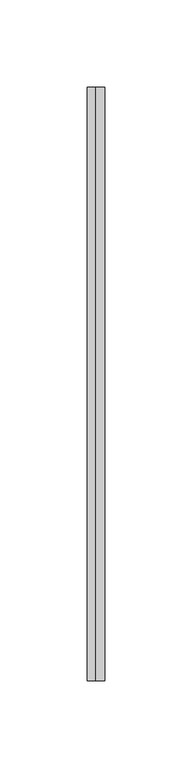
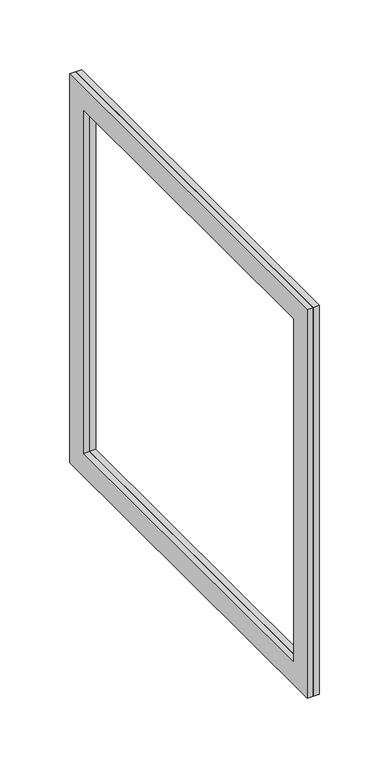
"""IFC4 building model written with IfcOpenShell, lengths in millimetres: duct fitting geometry, BL_ФланецВоздуховдов-Двойной_Прямоугольный_БезКоннекторов : BL_ФланецВоздуховдов-Двойной_Прямоугольный_БезКоннекторов."""

from ifc_helpers import new_model, si_unit, frame, origin, place, context, project, spatial, polyline, outline, extrude, source, transform, mapped, element, save


def duct_fitting_3be22136(model_context):
    return source(origin(), model_context, "Body", "SweptSolid", [
        extrude(outline(polyline([(-215.6742229, 170.0), (124.3257771, 170.0), (124.3257771, -170.0), (-215.6742229, -170.0), (-215.6742229, 170.0)]), holes=[polyline([(-195.6742229, 150.0), (-195.6742229, -150.0), (104.3257771, -150.0), (104.3257771, 150.0), (-195.6742229, 150.0)])]), frame((0.0, 0.0, 0.0), z_axis=(1.0, 0.0, 0.0), x_axis=(0.0, 1.0, 0.0)), (0.0, 0.0, 1.0), 5.0),
        extrude(outline(polyline([(-215.6742229, 170.0), (124.3257771, 170.0), (124.3257771, -170.0), (-215.6742229, -170.0), (-215.6742229, 170.0)]), holes=[polyline([(104.3257771, 150.0), (-195.6742229, 150.0), (-195.6742229, -150.0), (104.3257771, -150.0), (104.3257771, 150.0)])]), frame((-5.0, 0.0, 0.0), z_axis=(1.0, 0.0, 0.0), x_axis=(0.0, 1.0, 0.0)), (0.0, 0.0, 1.0), 5.0),
    ])


if __name__ == "__main__":
    model = new_model("IFC4")
    model_context = context("Model", 3, world=origin())
    ifc_project = project(units=[si_unit("LENGTHUNIT", "METRE", prefix="MILLI")], contexts=[model_context])
    site = spatial("IfcSite", under=ifc_project)
    building = spatial("IfcBuilding", under=site)
    placement = place(None, origin())
    duct_fitting_shape = duct_fitting_3be22136(model_context)
    element("IfcDuctFitting", 1, ObjectType="BL_ФланецВоздуховдов-Двойной_Прямоугольный_БезКоннекторов : BL_ФланецВоздуховдов-Двойной_Прямоугольный_БезКоннекторов", at=placement, inside=building, context=model_context, shape_type="MappedRepresentation", body=[
        mapped(duct_fitting_shape, transform((0.0, 0.0, 0.0), x_axis=(1.0, 0.0, 0.0), y_axis=(0.0, 1.0, 0.0), z_axis=(0.0, 0.0, 1.0))),
    ])
    save(model, "model.ifc")
